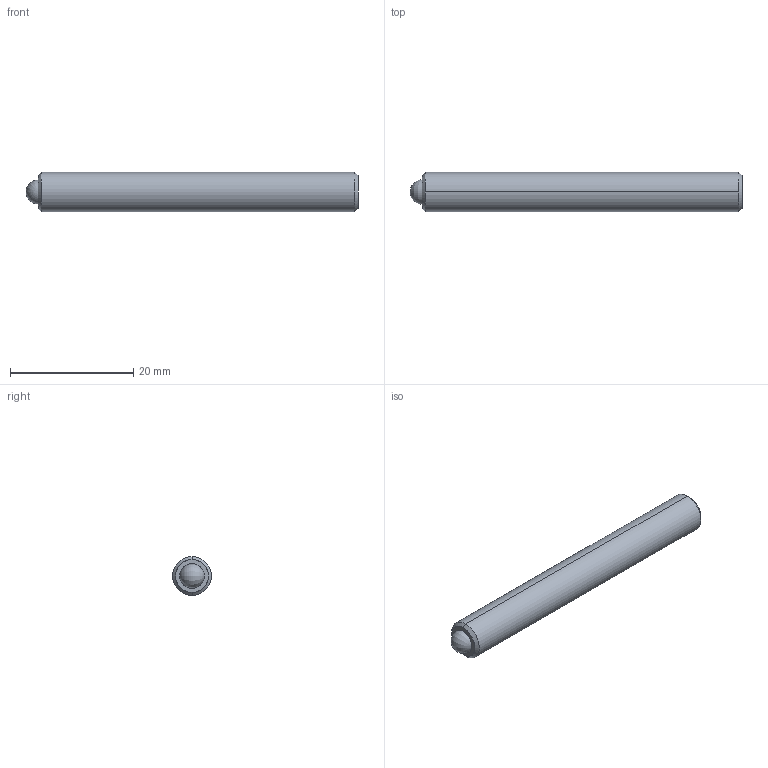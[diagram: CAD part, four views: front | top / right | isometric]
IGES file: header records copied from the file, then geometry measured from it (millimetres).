
Start section: SolidWorks IGES file using analytic representation for surfaces
Global section: file name: C:\Users\workpc\Desktop\KMA Solidworks\TS250-100 Series\TS250-100-2125.IGS; native system: SolidWorks 2013; preprocessor: SolidWorks 2013; author: workpc; date: 130211.182008; units: inch
Bounding box: 53.97 x 6.35 x 6.35 mm (x, y, z)
Surface area: 1181 mm2 (no closed solid volume)
Topology: 0 solids, 0 shells, 20 faces, 204 edges, 200 vertices
Faces by surface type: revolution 10, bspline 10
